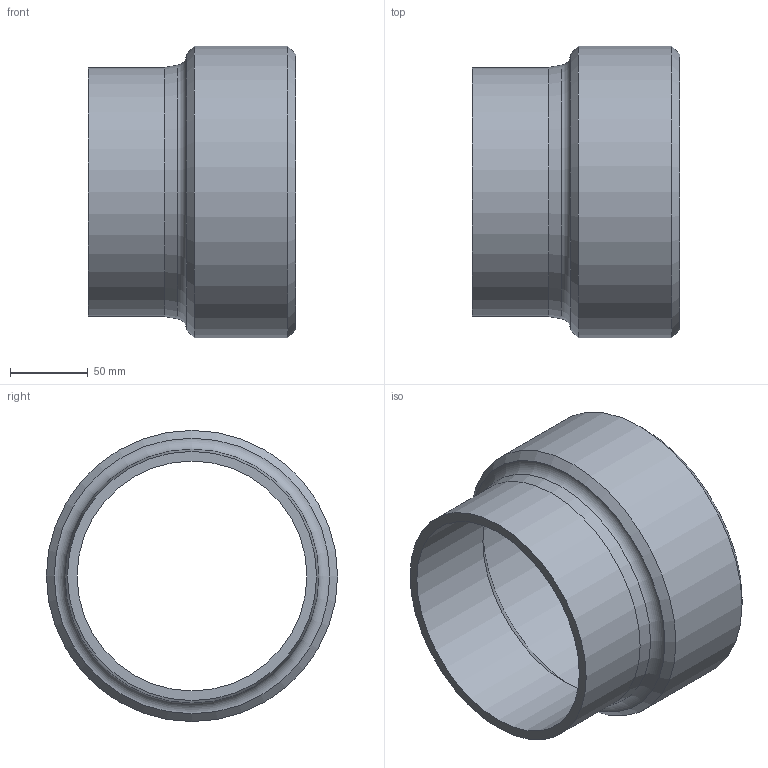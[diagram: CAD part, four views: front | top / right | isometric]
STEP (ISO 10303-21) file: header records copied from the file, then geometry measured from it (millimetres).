
FILE_DESCRIPTION(/* description */ (''),/* implementation_level */ '2;1');
FILE_NAME(/* name */ 'Z:\Geberit\Export\NewStep\359229.stp',/* time_stamp */ '2014-04-01T20:55:08+02:00',/* author */ ('ML'),/* organization */ (''),/* preprocessor_version */ 'ST-DEVELOPER v15.2',/* originating_system */ 'Autodesk Inventor 2014',/* authorisation */ '');
FILE_SCHEMA (('AUTOMOTIVE_DESIGN { 1 0 10303 214 3 1 1 }'));
Length unit declared in the file: millimetre
Products named in the file (1): 359229
Bounding box: 133 x 187 x 187 mm (x, y, z)
Volume: 642122.1 mm3; surface area: 150768.3 mm2
Topology: 1 solids, 1 shells, 11 faces, 20 edges, 11 vertices
Faces by surface type: cylinder 4, cone 4, plane 2, torus 1
Full cylindrical faces by diameter (mm): 147.6 x1, 160 x1, 163.6 x1, 187 x1
Entity records: 260 total; most frequent: DIRECTION 46, CARTESIAN_POINT 34, AXIS2_PLACEMENT_3D 23, EDGE_LOOP 22, ORIENTED_EDGE 22, FACE_BOUND 12, STYLED_ITEM 12, CIRCLE 11
